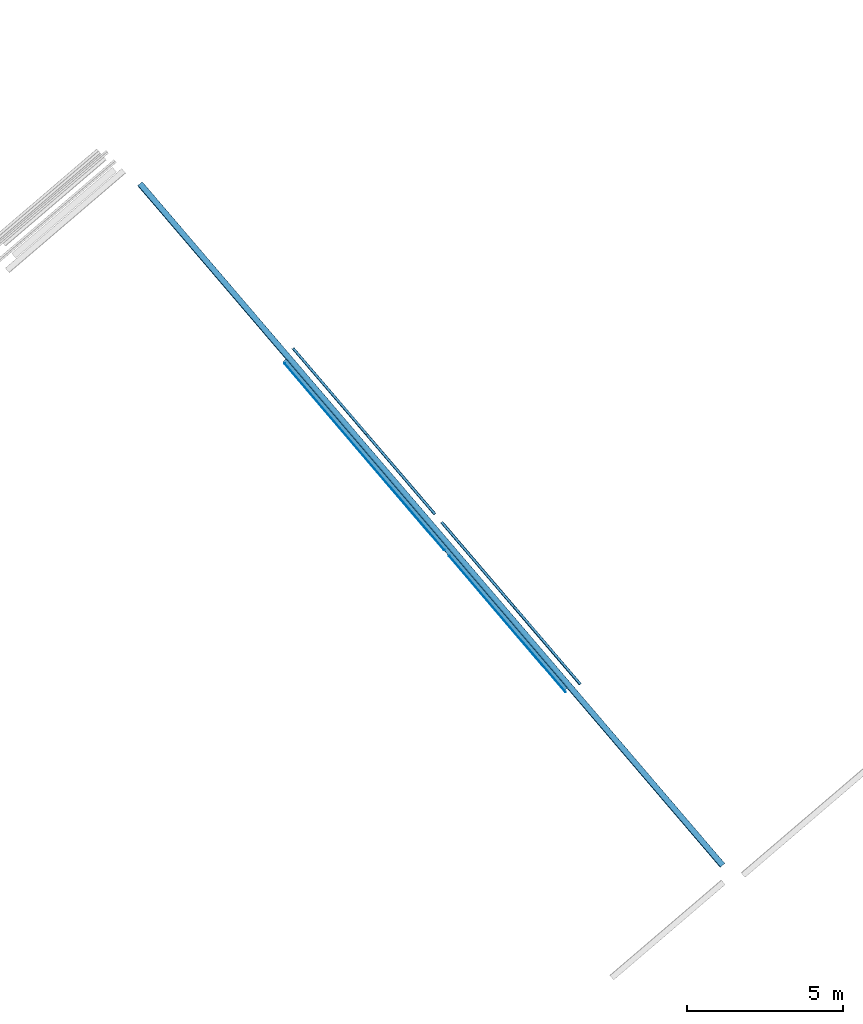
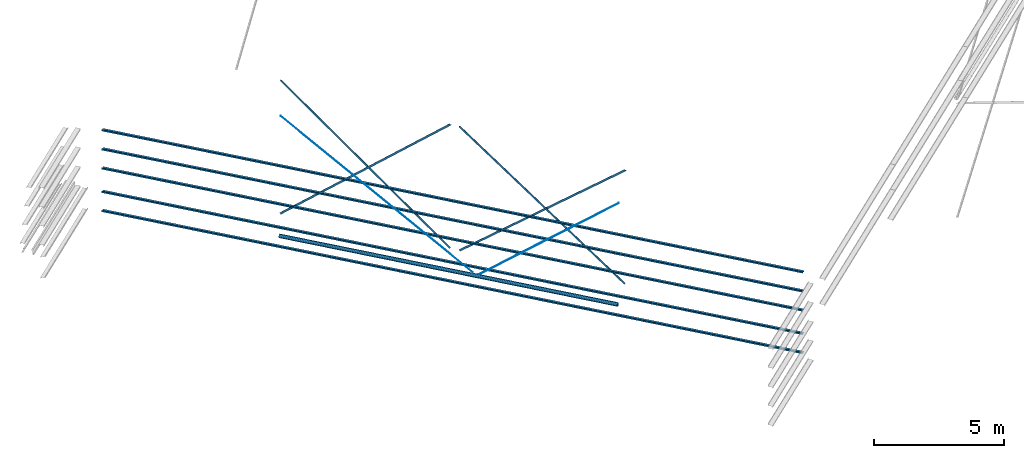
# One storey, part 1 of 6: 12 beams.
"""IFC2X3 building model written with IfcOpenShell, lengths in millimetres."""

from ifc_helpers import new_model, entity, si_unit, converted_unit, derived_unit, direction, frame, frame_2d, origin, origin_2d_with_axis, place, context, subcontext, project, spatial, polyline, circle_curve, parameter, trimmed, segment, composite_curve, circle, hollow_circle, outline, extrude, material, type_object, element, save


model = new_model("IFC2X3")

# Units and contexts
model_context = context("Model", 3, precision=0.01, world=origin(), true_north=direction((6.123031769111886e-17, 1.0)))
body_context = subcontext(model_context, "Body", "Model", "MODEL_VIEW")
ifc_project = project(units=[si_unit("LENGTHUNIT", "METRE", prefix="MILLI"), si_unit("AREAUNIT", "SQUARE_METRE"), si_unit("VOLUMEUNIT", "CUBIC_METRE"), converted_unit("PLANEANGLEUNIT", "DEGREE", entity("IfcRatioMeasure", 0.017453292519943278), si_unit("PLANEANGLEUNIT", "RADIAN"), dimensions=[0, 0, 0, 0, 0, 0, 0]), si_unit("MASSUNIT", "GRAM", prefix="KILO"), derived_unit("MASSDENSITYUNIT", [(si_unit("MASSUNIT", "GRAM", prefix="KILO"), 1), (si_unit("LENGTHUNIT", "METRE"), -3)]), derived_unit("MOMENTOFINERTIAUNIT", [(si_unit("LENGTHUNIT", "METRE"), 4)]), si_unit("TIMEUNIT", "SECOND"), si_unit("FREQUENCYUNIT", "HERTZ"), si_unit("THERMODYNAMICTEMPERATUREUNIT", "DEGREE_CELSIUS"), derived_unit("THERMALTRANSMITTANCEUNIT", [(si_unit("MASSUNIT", "GRAM", prefix="KILO"), 1), (si_unit("THERMODYNAMICTEMPERATUREUNIT", "KELVIN"), -1), (si_unit("TIMEUNIT", "SECOND"), -3)]), derived_unit("VOLUMETRICFLOWRATEUNIT", [(si_unit("LENGTHUNIT", "METRE"), 3), (si_unit("TIMEUNIT", "SECOND"), -1)]), derived_unit("MASSFLOWRATEUNIT", [(si_unit("MASSUNIT", "GRAM", prefix="KILO"), 1), (si_unit("TIMEUNIT", "SECOND"), -1)]), derived_unit("ROTATIONALFREQUENCYUNIT", [(si_unit("TIMEUNIT", "SECOND"), -1)]), si_unit("ELECTRICCURRENTUNIT", "AMPERE"), si_unit("ELECTRICVOLTAGEUNIT", "VOLT"), si_unit("POWERUNIT", "WATT"), si_unit("FORCEUNIT", "NEWTON", prefix="KILO"), si_unit("ILLUMINANCEUNIT", "LUX"), si_unit("LUMINOUSFLUXUNIT", "LUMEN"), si_unit("LUMINOUSINTENSITYUNIT", "CANDELA"), derived_unit("USERDEFINED", [(si_unit("MASSUNIT", "GRAM", prefix="KILO"), -1), (si_unit("LENGTHUNIT", "METRE"), -2), (si_unit("TIMEUNIT", "SECOND"), 3), (si_unit("LUMINOUSFLUXUNIT", "LUMEN"), 1)]), derived_unit("SOUNDPOWERUNIT", [(si_unit("MASSUNIT", "GRAM", prefix="KILO"), 1), (si_unit("LENGTHUNIT", "METRE"), 2), (si_unit("TIMEUNIT", "SECOND"), -3)]), derived_unit("LINEARVELOCITYUNIT", [(si_unit("LENGTHUNIT", "METRE"), 1), (si_unit("TIMEUNIT", "SECOND"), -1)]), si_unit("PRESSUREUNIT", "PASCAL"), derived_unit("USERDEFINED", [(si_unit("LENGTHUNIT", "METRE"), -2), (si_unit("MASSUNIT", "GRAM", prefix="KILO"), 1), (si_unit("TIMEUNIT", "SECOND"), -2)]), derived_unit("LINEARFORCEUNIT", [(si_unit("MASSUNIT", "GRAM", prefix="KILO"), 1), (si_unit("LENGTHUNIT", "METRE"), 1), (si_unit("TIMEUNIT", "SECOND"), -2), (si_unit("LENGTHUNIT", "METRE"), -1)]), derived_unit("PLANARFORCEUNIT", [(si_unit("MASSUNIT", "GRAM", prefix="KILO"), 1), (si_unit("LENGTHUNIT", "METRE"), 1), (si_unit("TIMEUNIT", "SECOND"), -2), (si_unit("LENGTHUNIT", "METRE"), -2)])], contexts=[model_context])

# Site, building, storey
site_placement = place(None, frame((962.4174930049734, -6014.433753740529, 0.0), z_axis=(0.0, 0.0, 1.0), x_axis=(0.7601792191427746, 0.649713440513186, 0.0)))
site = spatial("IfcSite", under=ifc_project, at=site_placement, Name="Default", CompositionType="ELEMENT")
building_placement = place(site_placement, origin())
building = spatial("IfcBuilding", under=site, at=building_placement, CompositionType="ELEMENT")
storey_placement = place(building_placement, frame((0.0, 0.0, 8925.0)))
storey = spatial("IfcBuildingStorey", under=building, at=storey_placement, Name="TOP OF PLANT ROOM", CompositionType="ELEMENT", Elevation=8925.000000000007)

# Beams
ifc_material_1 = material(Name="Metal - Steel - 300 MPa")
beam_type_1 = type_object("IfcBeamType", Name="ADSK_AU_EA-Equal Angles (AS 3679_1):90x90x10EA", PredefinedType="NOTDEFINED")
beam_1_placement = place(storey_placement, frame((154456.88550735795, -18136.802245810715, 2377.26100321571), z_axis=(0.0, 0.6204058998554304, 0.7842808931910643), x_axis=(0.0, 0.7842808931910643, -0.6204058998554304)))
element("IfcBeam", 1, at=beam_1_placement, inside=storey, type_object=beam_type_1, material=ifc_material_1, Name="ADSK_AU_EA-Equal Angles (AS 3679_1):90x90x10EA", ObjectType="ADSK_AU_EA-Equal Angles (AS 3679_1):90x90x10EA", context=body_context, shape_type="SweptSolid", body=[
    extrude(outline(composite_curve([segment(polyline([(29.222222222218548, -55.77777777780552), (34.222222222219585, -55.777777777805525)]), True, "CONTINUOUS"), segment(polyline([(34.222222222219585, -55.7777777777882), (34.22222222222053, 34.222222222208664)]), True, "CONTINUOUS"), segment(polyline([(34.222222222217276, 34.222222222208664), (-55.77777777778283, 34.222222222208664)]), True, "CONTINUOUS"), segment(polyline([(-55.77777777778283, 34.222222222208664), (-55.77777777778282, 29.2222222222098)]), True, "CONTINUOUS"), segment(trimmed(circle_curve(frame_2d((-50.77777777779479, 29.222222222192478), x_axis=(-1.0, 0.0)), 4.999999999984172), [parameter(0.0)], [parameter(90.00000000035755)], True, "PARAMETER"), True, "CONTINUOUS"), segment(polyline([(-50.777777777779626, 24.222222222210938), (16.222222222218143, 24.22222222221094)]), True, "CONTINUOUS"), segment(trimmed(circle_curve(frame_2d((16.222222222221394, 16.22222222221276), x_axis=(0.0, 1.0)), 7.999999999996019), [parameter(269.9999999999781)], [parameter(0.0)], True, "PARAMETER"), False, "CONTINUOUS"), segment(polyline([(24.222222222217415, 16.222222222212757), (24.222222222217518, -50.77777777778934)]), True, "CONTINUOUS"), segment(trimmed(circle_curve(frame_2d((29.222222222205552, -50.777777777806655), x_axis=(-1.0, 0.0)), 4.999999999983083), [parameter(0.0)], [parameter(90.00000000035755)], True, "PARAMETER"), True, "CONTINUOUS")], self_intersect=False)), frame((-28.016889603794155, -8.522222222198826, -55.777777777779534), z_axis=(1.0, 0.0, 0.0), x_axis=(0.0, 0.0, -1.0)), (0.0, 0.0, 1.0), 8633.516889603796),
])
beam_2_placement = place(storey_placement, frame((154449.66020470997, -11451.28332248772, 2866.815206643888), z_axis=(0.0, -0.6524524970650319, 0.7578296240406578), x_axis=(0.0, -0.7578296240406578, -0.6524524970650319)))
element("IfcBeam", 2, at=beam_2_placement, inside=storey, type_object=beam_type_1, material=ifc_material_1, Name="ADSK_AU_EA-Equal Angles (AS 3679_1):90x90x10EA", ObjectType="ADSK_AU_EA-Equal Angles (AS 3679_1):90x90x10EA", context=body_context, shape_type="SweptSolid", body=[
    extrude(outline(composite_curve([segment(polyline([(-55.777777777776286, -34.22222222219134), (34.22222222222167, -34.22222222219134)]), True, "CONTINUOUS"), segment(polyline([(34.22222222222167, -34.22222222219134), (34.22222222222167, 55.777777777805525)]), True, "CONTINUOUS"), segment(polyline([(34.22222222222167, 55.77777777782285), (29.222222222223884, 55.77777777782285)]), True, "CONTINUOUS"), segment(trimmed(circle_curve(frame_2d((29.22222222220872, 50.777777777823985), x_axis=(0.0, 1.0)), 4.999999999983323), [parameter(0.0)], [parameter(90.00000000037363)], True, "PARAMETER"), True, "CONTINUOUS"), segment(polyline([(24.22222222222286, 50.77777777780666), (24.22222222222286, -16.222222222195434)]), True, "CONTINUOUS"), segment(trimmed(circle_curve(frame_2d((16.22222222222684, -16.222222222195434), x_axis=(1.0, 0.0)), 7.999999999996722), [parameter(269.999999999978)], [parameter(0.0)], True, "PARAMETER"), False, "CONTINUOUS"), segment(polyline([(16.22222222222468, -24.222222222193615), (-50.777777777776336, -24.222222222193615)]), True, "CONTINUOUS"), segment(trimmed(circle_curve(frame_2d((-50.77777777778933, -29.22222222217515), x_axis=(0.0, 1.0)), 4.999999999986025), [parameter(0.0)], [parameter(90.00000000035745)], True, "PARAMETER"), True, "CONTINUOUS"), segment(polyline([(-55.777777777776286, -29.222222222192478), (-55.777777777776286, -34.22222222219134)]), True, "CONTINUOUS")], self_intersect=False)), frame((-12.609983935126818, 8.522222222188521, -55.77777777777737), z_axis=(1.0, 0.0, 0.0), x_axis=(0.0, 0.0, -1.0)), (0.0, 0.0, 1.0), 8928.826161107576),
])
beam_3_placement = place(storey_placement, frame((154451.84659723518, -4131.865091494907, 3340.264779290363), z_axis=(0.0006733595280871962, -0.6717753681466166, 0.7407546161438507), x_axis=(0.0007425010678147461, -0.7407542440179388, -0.6717757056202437)))
element("IfcBeam", 3, at=beam_3_placement, inside=storey, type_object=beam_type_1, material=ifc_material_1, Name="ADSK_AU_EA-Equal Angles (AS 3679_1):90x90x10EA", ObjectType="ADSK_AU_EA-Equal Angles (AS 3679_1):90x90x10EA", context=body_context, shape_type="SweptSolid", body=[
    extrude(outline(composite_curve([segment(polyline([(-55.777777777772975, -34.22222222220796), (34.22222222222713, -34.22222222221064)]), True, "CONTINUOUS"), segment(polyline([(34.22222222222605, -34.22222222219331), (34.22222222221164, 55.777777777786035)]), True, "CONTINUOUS"), segment(polyline([(34.22222222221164, 55.77777777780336), (29.222222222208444, 55.77777777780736)]), True, "CONTINUOUS"), segment(trimmed(circle_curve(frame_2d((29.2222222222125, 50.77777777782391), x_axis=(0.0, 1.0)), 4.9999999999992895), [parameter(0.0)], [parameter(90.00000000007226)], True, "PARAMETER"), True, "CONTINUOUS"), segment(polyline([(24.222222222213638, 50.77777777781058), (24.222222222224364, -16.222222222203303)]), True, "CONTINUOUS"), segment(trimmed(circle_curve(frame_2d((16.222222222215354, -16.222222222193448), x_axis=(1.0, 0.0)), 8.000000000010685), [parameter(270.0000000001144)], [parameter(0.0)], True, "PARAMETER"), False, "CONTINUOUS"), segment(polyline([(16.222222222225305, -24.222222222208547), (-50.77777777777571, -24.222222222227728)]), True, "CONTINUOUS"), segment(trimmed(circle_curve(frame_2d((-50.777777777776, -29.222222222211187), x_axis=(0.0, 1.0)), 4.999999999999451), [parameter(0.0)], [parameter(90.0000000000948)], True, "PARAMETER"), True, "CONTINUOUS"), segment(polyline([(-55.77777777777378, -29.222222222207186), (-55.777777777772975, -34.22222222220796)]), True, "CONTINUOUS")], self_intersect=False)), frame((0.0, 8.522222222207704, -55.77777777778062), z_axis=(1.0, 0.0, 0.0), x_axis=(0.0, 0.0, -1.0)), (0.0, 0.0, 1.0), 9353.000000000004),
])
beam_4_placement = place(storey_placement, frame((154451.66020471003, -11019.596010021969, 2894.25259975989), z_axis=(0.0, 0.6417807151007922, 0.7668882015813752), x_axis=(0.0, 0.7668882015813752, -0.6417807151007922)))
element("IfcBeam", 4, at=beam_4_placement, inside=storey, type_object=beam_type_1, material=ifc_material_1, Name="ADSK_AU_EA-Equal Angles (AS 3679_1):90x90x10EA", ObjectType="ADSK_AU_EA-Equal Angles (AS 3679_1):90x90x10EA", context=body_context, shape_type="SweptSolid", body=[
    extrude(outline(composite_curve([segment(polyline([(29.222222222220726, -55.77777777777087), (34.222222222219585, -55.77777777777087)]), True, "CONTINUOUS"), segment(polyline([(34.222222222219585, -55.77777777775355), (34.22222222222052, 34.222222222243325)]), True, "CONTINUOUS"), segment(polyline([(34.22222222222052, 34.222222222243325), (-55.77777777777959, 34.22222222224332)]), True, "CONTINUOUS"), segment(polyline([(-55.77777777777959, 34.22222222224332), (-55.777777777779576, 29.222222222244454)]), True, "CONTINUOUS"), segment(trimmed(circle_curve(frame_2d((-50.77777777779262, 29.222222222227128), x_axis=(-1.0, 0.0)), 4.999999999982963), [parameter(0.0)], [parameter(90.0000000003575)], True, "PARAMETER"), True, "CONTINUOUS"), segment(polyline([(-50.777777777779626, 24.22222222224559), (16.22222222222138, 24.22222222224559)]), True, "CONTINUOUS"), segment(trimmed(circle_curve(frame_2d((16.222222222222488, 16.22222222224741), x_axis=(0.0, 1.0)), 7.999999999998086), [parameter(269.999999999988)], [parameter(0.0)], True, "PARAMETER"), False, "CONTINUOUS"), segment(polyline([(24.22222222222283, 16.222222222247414), (24.22222222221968, -50.777777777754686)]), True, "CONTINUOUS"), segment(trimmed(circle_curve(frame_2d((29.222222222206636, -50.77777777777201), x_axis=(-1.0, 0.0)), 4.999999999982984), [parameter(0.0)], [parameter(90.0000000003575)], True, "PARAMETER"), True, "CONTINUOUS")], self_intersect=False)), frame((26.20707219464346, -8.522222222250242, -55.777777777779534), z_axis=(1.0, 0.0, 0.0), x_axis=(0.0, 0.0, -1.0)), (0.0, 0.0, 1.0), 9058.192927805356),
])
beam_type_2 = type_object("IfcBeamType", Name="ADSK_UK_Light Gauge-Zeds-Purlin:Metsec-202Z14", PredefinedType="NOTDEFINED")
beam_5_placement = place(storey_placement, frame((154066.46020470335, -25607.428082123, -3425.0), z_axis=(0.0, 0.0, 1.0), x_axis=(0.0, 1.0, 0.0)))
element("IfcBeam", 5, at=beam_5_placement, inside=storey, type_object=beam_type_2, material=ifc_material_1, Name="ADSK_UK_Light Gauge-Zeds-Purlin:Metsec-202Z14", ObjectType="ADSK_UK_Light Gauge-Zeds-Purlin:Metsec-202Z14", context=body_context, shape_type="SweptSolid", body=[
    extrude(outline(composite_curve([segment(polyline([(3.600000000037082, -101.20000000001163), (58.0, -101.20000000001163)]), True, "CONTINUOUS"), segment(trimmed(circle_curve(frame_2d((58.0, -98.40000000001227), x_axis=(0.0, -1.0)), 2.8000000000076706), [parameter(0.0)], [parameter(89.99999999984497)], True, "PARAMETER"), True, "CONTINUOUS"), segment(polyline([(60.80000000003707, -98.40000000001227), (60.79999999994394, -80.2000000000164)]), True, "CONTINUOUS"), segment(polyline([(60.80000000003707, -80.2000000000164), (59.399999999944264, -80.2000000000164)]), True, "CONTINUOUS"), segment(polyline([(59.40000000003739, -80.1999999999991), (59.399999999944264, -98.40000000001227)]), True, "CONTINUOUS"), segment(trimmed(circle_curve(frame_2d((58.0, -98.40000000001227), x_axis=(1.0, 0.0)), 1.3999999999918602), [parameter(269.9999999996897)], [parameter(0.0)], True, "PARAMETER"), False, "CONTINUOUS"), segment(polyline([(58.0, -99.80000000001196), (3.5999999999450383, -99.80000000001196)]), True, "CONTINUOUS"), segment(trimmed(circle_curve(frame_2d((3.5999999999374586, -98.40000000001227), x_axis=(0.0, -1.0)), 1.399999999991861), [parameter(269.9999999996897)], [parameter(0.0)], True, "PARAMETER"), False, "CONTINUOUS"), segment(polyline([(2.2000000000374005, -98.39999999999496), (2.1999999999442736, 98.0)]), True, "CONTINUOUS"), segment(trimmed(circle_curve(frame_2d((-0.60000000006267, 98.0), x_axis=(1.0, 0.0)), 2.8000000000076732), [parameter(0.0)], [parameter(89.99999999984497)], True, "PARAMETER"), True, "CONTINUOUS"), segment(polyline([(-0.5999999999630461, 100.79999999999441), (-60.0, 100.79999999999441)]), True, "CONTINUOUS"), segment(trimmed(circle_curve(frame_2d((-60.0, 98.0), x_axis=(0.0, 1.0)), 2.800000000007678), [parameter(0.0)], [parameter(89.99999999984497)], True, "PARAMETER"), True, "CONTINUOUS"), segment(polyline([(-62.799999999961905, 98.0), (-62.80000000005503, 81.79999999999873)]), True, "CONTINUOUS"), segment(polyline([(-62.799999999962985, 81.79999999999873), (-61.40000000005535, 81.79999999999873)]), True, "CONTINUOUS"), segment(polyline([(-61.39999999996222, 81.79999999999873), (-61.40000000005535, 98.0)]), True, "CONTINUOUS"), segment(trimmed(circle_curve(frame_2d((-60.0, 98.0), x_axis=(-1.0, 0.0)), 1.3999999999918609), [parameter(269.9999999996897)], [parameter(0.0)], True, "PARAMETER"), False, "CONTINUOUS"), segment(polyline([(-60.0, 99.39999999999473), (-0.6000000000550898, 99.39999999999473)]), True, "CONTINUOUS"), segment(trimmed(circle_curve(frame_2d((-0.6000000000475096, 98.0), x_axis=(0.0, 1.0)), 1.399999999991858), [parameter(269.9999999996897)], [parameter(0.0)], True, "PARAMETER"), False, "CONTINUOUS"), segment(polyline([(0.8000000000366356, 98.0), (0.7999999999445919, -98.40000000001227)]), True, "CONTINUOUS"), segment(trimmed(circle_curve(frame_2d((3.599999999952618, -98.40000000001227), x_axis=(-1.0, 0.0)), 2.800000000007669), [parameter(0.0)], [parameter(89.99999999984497)], True, "PARAMETER"), True, "CONTINUOUS")], self_intersect=False)), frame((43.0, -100.79999999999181, 0.6999999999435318), z_axis=(1.0, 0.0, 0.0), x_axis=(0.0, 0.0, -1.0)), (0.0, 0.0, 1.0), 28668.999999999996),
])
beam_6_placement = place(storey_placement, frame((154066.46020470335, -25607.428082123, -4325.0), z_axis=(0.0, 0.0, 1.0), x_axis=(0.0, 1.0, 0.0)))
element("IfcBeam", 6, at=beam_6_placement, inside=storey, type_object=beam_type_2, material=ifc_material_1, Name="ADSK_UK_Light Gauge-Zeds-Purlin:Metsec-202Z14", ObjectType="ADSK_UK_Light Gauge-Zeds-Purlin:Metsec-202Z14", context=body_context, shape_type="SweptSolid", body=[
    extrude(outline(composite_curve([segment(polyline([(3.6000000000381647, -101.20000000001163), (58.0, -101.20000000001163)]), True, "CONTINUOUS"), segment(trimmed(circle_curve(frame_2d((58.0, -98.40000000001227), x_axis=(0.0, -1.0)), 2.800000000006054), [parameter(0.0)], [parameter(89.99999999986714)], True, "PARAMETER"), True, "CONTINUOUS"), segment(polyline([(60.80000000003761, -98.40000000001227), (60.79999999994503, -80.2000000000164)]), True, "CONTINUOUS"), segment(polyline([(60.80000000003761, -80.2000000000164), (59.39999999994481, -80.2000000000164)]), True, "CONTINUOUS"), segment(polyline([(59.400000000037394, -80.1999999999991), (59.39999999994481, -98.40000000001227)]), True, "CONTINUOUS"), segment(trimmed(circle_curve(frame_2d((58.0, -98.40000000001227), x_axis=(1.0, 0.0)), 1.3999999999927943), [parameter(269.9999999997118)], [parameter(0.0)], True, "PARAMETER"), False, "CONTINUOUS"), segment(polyline([(58.0, -99.80000000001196), (3.5999999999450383, -99.80000000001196)]), True, "CONTINUOUS"), segment(trimmed(circle_curve(frame_2d((3.5999999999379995, -98.40000000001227), x_axis=(0.0, -1.0)), 1.3999999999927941), [parameter(269.9999999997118)], [parameter(0.0)], True, "PARAMETER"), False, "CONTINUOUS"), segment(polyline([(2.200000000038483, -98.39999999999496), (2.1999999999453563, 98.0)]), True, "CONTINUOUS"), segment(trimmed(circle_curve(frame_2d((-0.6000000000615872, 98.0), x_axis=(1.0, 0.0)), 2.800000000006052), [parameter(0.0)], [parameter(89.99999999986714)], True, "PARAMETER"), True, "CONTINUOUS"), segment(polyline([(-0.5999999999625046, 100.79999999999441), (-60.0, 100.79999999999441)]), True, "CONTINUOUS"), segment(trimmed(circle_curve(frame_2d((-60.0, 98.0), x_axis=(0.0, 1.0)), 2.8000000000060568), [parameter(0.0)], [parameter(89.99999999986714)], True, "PARAMETER"), True, "CONTINUOUS"), segment(polyline([(-62.79999999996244, 98.0), (-62.80000000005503, 81.79999999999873)]), True, "CONTINUOUS"), segment(polyline([(-62.7999999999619, 81.79999999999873), (-61.4000000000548, 81.79999999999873)]), True, "CONTINUOUS"), segment(polyline([(-61.39999999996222, 81.79999999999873), (-61.4000000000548, 98.0)]), True, "CONTINUOUS"), segment(trimmed(circle_curve(frame_2d((-60.0, 98.0), x_axis=(-1.0, 0.0)), 1.399999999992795), [parameter(269.9999999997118)], [parameter(0.0)], True, "PARAMETER"), False, "CONTINUOUS"), segment(polyline([(-60.0, 99.39999999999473), (-0.6000000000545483, 99.39999999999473)]), True, "CONTINUOUS"), segment(trimmed(circle_curve(frame_2d((-0.6000000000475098, 98.0), x_axis=(0.0, 1.0)), 1.3999999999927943), [parameter(269.9999999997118)], [parameter(0.0)], True, "PARAMETER"), False, "CONTINUOUS"), segment(polyline([(0.8000000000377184, 98.0), (0.7999999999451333, -98.40000000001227)]), True, "CONTINUOUS"), segment(trimmed(circle_curve(frame_2d((3.5999999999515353, -98.40000000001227), x_axis=(-1.0, 0.0)), 2.800000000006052), [parameter(0.0)], [parameter(89.99999999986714)], True, "PARAMETER"), True, "CONTINUOUS")], self_intersect=False)), frame((43.0, -100.79999999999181, 0.6999999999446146), z_axis=(1.0, 0.0, 0.0), x_axis=(0.0, 0.0, -1.0)), (0.0, 0.0, 1.0), 28668.999999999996),
])
beam_7_placement = place(storey_placement, frame((154066.46020470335, -25607.428082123, -2325.0), z_axis=(0.0, 0.0, 1.0), x_axis=(0.0, 1.0, 0.0)))
element("IfcBeam", 7, at=beam_7_placement, inside=storey, type_object=beam_type_2, material=ifc_material_1, Name="ADSK_UK_Light Gauge-Zeds-Purlin:Metsec-202Z14", ObjectType="ADSK_UK_Light Gauge-Zeds-Purlin:Metsec-202Z14", context=body_context, shape_type="SweptSolid", body=[
    extrude(outline(composite_curve([segment(polyline([(3.6000000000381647, -101.20000000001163), (58.0, -101.20000000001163)]), True, "CONTINUOUS"), segment(trimmed(circle_curve(frame_2d((58.0, -98.40000000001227), x_axis=(0.0, -1.0)), 2.8000000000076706), [parameter(0.0)], [parameter(89.99999999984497)], True, "PARAMETER"), True, "CONTINUOUS"), segment(polyline([(60.80000000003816, -98.40000000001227), (60.79999999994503, -80.2000000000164)]), True, "CONTINUOUS"), segment(polyline([(60.80000000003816, -80.2000000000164), (59.39999999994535, -80.2000000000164)]), True, "CONTINUOUS"), segment(polyline([(59.400000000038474, -80.1999999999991), (59.39999999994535, -98.40000000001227)]), True, "CONTINUOUS"), segment(trimmed(circle_curve(frame_2d((58.0, -98.40000000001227), x_axis=(1.0, 0.0)), 1.3999999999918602), [parameter(269.9999999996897)], [parameter(0.0)], True, "PARAMETER"), False, "CONTINUOUS"), segment(polyline([(58.0, -99.80000000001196), (3.599999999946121, -99.80000000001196)]), True, "CONTINUOUS"), segment(trimmed(circle_curve(frame_2d((3.5999999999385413, -98.40000000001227), x_axis=(0.0, -1.0)), 1.399999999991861), [parameter(269.9999999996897)], [parameter(0.0)], True, "PARAMETER"), False, "CONTINUOUS"), segment(polyline([(2.200000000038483, -98.39999999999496), (2.1999999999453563, 98.0)]), True, "CONTINUOUS"), segment(trimmed(circle_curve(frame_2d((-0.6000000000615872, 98.0), x_axis=(1.0, 0.0)), 2.8000000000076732), [parameter(0.0)], [parameter(89.99999999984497)], True, "PARAMETER"), True, "CONTINUOUS"), segment(polyline([(-0.5999999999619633, 100.79999999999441), (-60.0, 100.79999999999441)]), True, "CONTINUOUS"), segment(trimmed(circle_curve(frame_2d((-60.0, 98.0), x_axis=(0.0, 1.0)), 2.800000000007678), [parameter(0.0)], [parameter(89.99999999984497)], True, "PARAMETER"), True, "CONTINUOUS"), segment(polyline([(-62.79999999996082, 98.0), (-62.80000000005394, 81.79999999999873)]), True, "CONTINUOUS"), segment(polyline([(-62.7999999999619, 81.79999999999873), (-61.40000000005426, 81.79999999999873)]), True, "CONTINUOUS"), segment(polyline([(-61.39999999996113, 81.79999999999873), (-61.40000000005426, 98.0)]), True, "CONTINUOUS"), segment(trimmed(circle_curve(frame_2d((-60.0, 98.0), x_axis=(-1.0, 0.0)), 1.3999999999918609), [parameter(269.9999999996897)], [parameter(0.0)], True, "PARAMETER"), False, "CONTINUOUS"), segment(polyline([(-60.0, 99.39999999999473), (-0.600000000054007, 99.39999999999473)]), True, "CONTINUOUS"), segment(trimmed(circle_curve(frame_2d((-0.6000000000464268, 98.0), x_axis=(0.0, 1.0)), 1.399999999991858), [parameter(269.9999999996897)], [parameter(0.0)], True, "PARAMETER"), False, "CONTINUOUS"), segment(polyline([(0.8000000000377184, 98.0), (0.7999999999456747, -98.40000000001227)]), True, "CONTINUOUS"), segment(trimmed(circle_curve(frame_2d((3.599999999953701, -98.40000000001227), x_axis=(-1.0, 0.0)), 2.800000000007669), [parameter(0.0)], [parameter(89.99999999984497)], True, "PARAMETER"), True, "CONTINUOUS")], self_intersect=False)), frame((43.0, -100.79999999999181, 0.6999999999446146), z_axis=(1.0, 0.0, 0.0), x_axis=(0.0, 0.0, -1.0)), (0.0, 0.0, 1.0), 28668.999999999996),
])
beam_8_placement = place(storey_placement, frame((154066.46020470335, -25607.428082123, -1425.0), z_axis=(0.0, 0.0, 1.0), x_axis=(0.0, 1.0, 0.0)))
element("IfcBeam", 8, at=beam_8_placement, inside=storey, type_object=beam_type_2, material=ifc_material_1, Name="ADSK_UK_Light Gauge-Zeds-Purlin:Metsec-202Z14", ObjectType="ADSK_UK_Light Gauge-Zeds-Purlin:Metsec-202Z14", context=body_context, shape_type="SweptSolid", body=[
    extrude(outline(composite_curve([segment(polyline([(3.600000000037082, -101.20000000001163), (58.0, -101.20000000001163)]), True, "CONTINUOUS"), segment(trimmed(circle_curve(frame_2d((58.0, -98.40000000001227), x_axis=(0.0, -1.0)), 2.8000000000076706), [parameter(0.0)], [parameter(89.99999999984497)], True, "PARAMETER"), True, "CONTINUOUS"), segment(polyline([(60.80000000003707, -98.40000000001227), (60.79999999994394, -80.2000000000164)]), True, "CONTINUOUS"), segment(polyline([(60.80000000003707, -80.2000000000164), (59.399999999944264, -80.2000000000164)]), True, "CONTINUOUS"), segment(polyline([(59.40000000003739, -80.1999999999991), (59.399999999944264, -98.40000000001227)]), True, "CONTINUOUS"), segment(trimmed(circle_curve(frame_2d((58.0, -98.40000000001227), x_axis=(1.0, 0.0)), 1.3999999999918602), [parameter(269.9999999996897)], [parameter(0.0)], True, "PARAMETER"), False, "CONTINUOUS"), segment(polyline([(58.0, -99.80000000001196), (3.5999999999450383, -99.80000000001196)]), True, "CONTINUOUS"), segment(trimmed(circle_curve(frame_2d((3.5999999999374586, -98.40000000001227), x_axis=(0.0, -1.0)), 1.399999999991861), [parameter(269.9999999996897)], [parameter(0.0)], True, "PARAMETER"), False, "CONTINUOUS"), segment(polyline([(2.2000000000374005, -98.39999999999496), (2.1999999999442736, 98.0)]), True, "CONTINUOUS"), segment(trimmed(circle_curve(frame_2d((-0.60000000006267, 98.0), x_axis=(1.0, 0.0)), 2.8000000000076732), [parameter(0.0)], [parameter(89.99999999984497)], True, "PARAMETER"), True, "CONTINUOUS"), segment(polyline([(-0.5999999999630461, 100.79999999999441), (-60.0, 100.79999999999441)]), True, "CONTINUOUS"), segment(trimmed(circle_curve(frame_2d((-60.0, 98.0), x_axis=(0.0, 1.0)), 2.800000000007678), [parameter(0.0)], [parameter(89.99999999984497)], True, "PARAMETER"), True, "CONTINUOUS"), segment(polyline([(-62.799999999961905, 98.0), (-62.80000000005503, 81.79999999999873)]), True, "CONTINUOUS"), segment(polyline([(-62.799999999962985, 81.79999999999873), (-61.40000000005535, 81.79999999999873)]), True, "CONTINUOUS"), segment(polyline([(-61.39999999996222, 81.79999999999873), (-61.40000000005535, 98.0)]), True, "CONTINUOUS"), segment(trimmed(circle_curve(frame_2d((-60.0, 98.0), x_axis=(-1.0, 0.0)), 1.3999999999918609), [parameter(269.9999999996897)], [parameter(0.0)], True, "PARAMETER"), False, "CONTINUOUS"), segment(polyline([(-60.0, 99.39999999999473), (-0.6000000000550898, 99.39999999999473)]), True, "CONTINUOUS"), segment(trimmed(circle_curve(frame_2d((-0.6000000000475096, 98.0), x_axis=(0.0, 1.0)), 1.399999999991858), [parameter(269.9999999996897)], [parameter(0.0)], True, "PARAMETER"), False, "CONTINUOUS"), segment(polyline([(0.8000000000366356, 98.0), (0.7999999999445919, -98.40000000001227)]), True, "CONTINUOUS"), segment(trimmed(circle_curve(frame_2d((3.599999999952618, -98.40000000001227), x_axis=(-1.0, 0.0)), 2.800000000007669), [parameter(0.0)], [parameter(89.99999999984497)], True, "PARAMETER"), True, "CONTINUOUS")], self_intersect=False)), frame((43.0, -100.79999999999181, 0.6999999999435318), z_axis=(1.0, 0.0, 0.0), x_axis=(0.0, 0.0, -1.0)), (0.0, 0.0, 1.0), 28668.999999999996),
])
beam_9_placement = place(storey_placement, frame((154066.46020470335, -25607.428082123, -525.0), z_axis=(0.0, 0.0, 1.0), x_axis=(0.0, 1.0, 0.0)))
element("IfcBeam", 9, at=beam_9_placement, inside=storey, type_object=beam_type_2, material=ifc_material_1, Name="ADSK_UK_Light Gauge-Zeds-Purlin:Metsec-202Z14", ObjectType="ADSK_UK_Light Gauge-Zeds-Purlin:Metsec-202Z14", context=body_context, shape_type="SweptSolid", body=[
    extrude(outline(composite_curve([segment(polyline([(3.600000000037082, -101.20000000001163), (58.0, -101.20000000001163)]), True, "CONTINUOUS"), segment(trimmed(circle_curve(frame_2d((58.0, -98.40000000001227), x_axis=(0.0, -1.0)), 2.8000000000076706), [parameter(0.0)], [parameter(89.99999999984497)], True, "PARAMETER"), True, "CONTINUOUS"), segment(polyline([(60.80000000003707, -98.40000000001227), (60.79999999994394, -80.2000000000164)]), True, "CONTINUOUS"), segment(polyline([(60.80000000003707, -80.2000000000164), (59.399999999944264, -80.2000000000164)]), True, "CONTINUOUS"), segment(polyline([(59.40000000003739, -80.1999999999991), (59.399999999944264, -98.40000000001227)]), True, "CONTINUOUS"), segment(trimmed(circle_curve(frame_2d((58.0, -98.40000000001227), x_axis=(1.0, 0.0)), 1.3999999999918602), [parameter(269.9999999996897)], [parameter(0.0)], True, "PARAMETER"), False, "CONTINUOUS"), segment(polyline([(58.0, -99.80000000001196), (3.5999999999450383, -99.80000000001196)]), True, "CONTINUOUS"), segment(trimmed(circle_curve(frame_2d((3.5999999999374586, -98.40000000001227), x_axis=(0.0, -1.0)), 1.399999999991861), [parameter(269.9999999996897)], [parameter(0.0)], True, "PARAMETER"), False, "CONTINUOUS"), segment(polyline([(2.2000000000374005, -98.39999999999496), (2.1999999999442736, 98.0)]), True, "CONTINUOUS"), segment(trimmed(circle_curve(frame_2d((-0.60000000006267, 98.0), x_axis=(1.0, 0.0)), 2.8000000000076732), [parameter(0.0)], [parameter(89.99999999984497)], True, "PARAMETER"), True, "CONTINUOUS"), segment(polyline([(-0.5999999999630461, 100.79999999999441), (-60.0, 100.79999999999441)]), True, "CONTINUOUS"), segment(trimmed(circle_curve(frame_2d((-60.0, 98.0), x_axis=(0.0, 1.0)), 2.800000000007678), [parameter(0.0)], [parameter(89.99999999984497)], True, "PARAMETER"), True, "CONTINUOUS"), segment(polyline([(-62.799999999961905, 98.0), (-62.80000000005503, 81.79999999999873)]), True, "CONTINUOUS"), segment(polyline([(-62.799999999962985, 81.79999999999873), (-61.40000000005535, 81.79999999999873)]), True, "CONTINUOUS"), segment(polyline([(-61.39999999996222, 81.79999999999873), (-61.40000000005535, 98.0)]), True, "CONTINUOUS"), segment(trimmed(circle_curve(frame_2d((-60.0, 98.0), x_axis=(-1.0, 0.0)), 1.3999999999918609), [parameter(269.9999999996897)], [parameter(0.0)], True, "PARAMETER"), False, "CONTINUOUS"), segment(polyline([(-60.0, 99.39999999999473), (-0.6000000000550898, 99.39999999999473)]), True, "CONTINUOUS"), segment(trimmed(circle_curve(frame_2d((-0.6000000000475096, 98.0), x_axis=(0.0, 1.0)), 1.399999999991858), [parameter(269.9999999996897)], [parameter(0.0)], True, "PARAMETER"), False, "CONTINUOUS"), segment(polyline([(0.8000000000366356, 98.0), (0.7999999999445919, -98.40000000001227)]), True, "CONTINUOUS"), segment(trimmed(circle_curve(frame_2d((3.599999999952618, -98.40000000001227), x_axis=(-1.0, 0.0)), 2.800000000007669), [parameter(0.0)], [parameter(89.99999999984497)], True, "PARAMETER"), True, "CONTINUOUS")], self_intersect=False)), frame((43.0, -100.79999999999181, 0.6999999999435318), z_axis=(1.0, 0.0, 0.0), x_axis=(0.0, 0.0, -1.0)), (0.0, 0.0, 1.0), 28668.999999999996),
])
ifc_material_2 = material(Name="<Unnamed>")
beam_type_3 = type_object("IfcBeamType", Name="ADSK_AU_CHS-Circular Hollow Sections (AS 1163_C350):168.3x4.8CHS EXISTING", PredefinedType="NOTDEFINED")
beam_10_placement = place(storey_placement, frame((153941.89267041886, -25607.428082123, -3725.0), z_axis=(0.0, 0.0, 1.0), x_axis=(0.0, 1.0, 0.0)))
element("IfcBeam", 10, at=beam_10_placement, inside=storey, type_object=beam_type_3, material=ifc_material_2, Name="ADSK_AU_CHS-Circular Hollow Sections (AS 1163_C350):168.3x4.8CHS EXISTING", ObjectType="ADSK_AU_CHS-Circular Hollow Sections (AS 1163_C350):168.3x4.8CHS EXISTING", context=body_context, shape_type="SweptSolid", body=[
    extrude(hollow_circle(Radius=84.15000000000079, WallThickness=4.800000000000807, at=origin_2d_with_axis()), frame((7569.399999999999, -84.14999999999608, 0.0), z_axis=(1.0, 0.0, 0.0), x_axis=(0.0, 0.0, -1.0)), (0.0, 0.0, 1.0), 13846.200000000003),
])
beam_type_4 = type_object("IfcBeamType", Name="ADSK_AU_Round Bars (AS 3679_1):24ROD (EXISTING)", PredefinedType="NOTDEFINED")
beam_11_placement = place(storey_placement, frame((153941.8926704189, -18093.079634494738, 1109.2393866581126), z_axis=(0.0, 0.6345537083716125, 0.7728787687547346), x_axis=(0.0, 0.7728787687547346, -0.6345537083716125)))
element("IfcBeam", 11, at=beam_11_placement, inside=storey, type_object=beam_type_4, Name="ADSK_AU_Round Bars (AS 3679_1):24ROD (EXISTING)", ObjectType="ADSK_AU_Round Bars (AS 3679_1):24ROD (EXISTING)", context=body_context, shape_type="SweptSolid", body=[
    extrude(circle(Radius=12.00000000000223, at=origin_2d_with_axis()), frame((0.0, -12.0, 0.0), z_axis=(1.0, 0.0, 0.0), x_axis=(0.0, 0.0, -1.0)), (0.0, 0.0, 1.0), 7400.000000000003),
])
beam_12_placement = place(storey_placement, frame((153941.89267041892, -4339.072180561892, 1929.6802126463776), z_axis=(0.0, -0.5756133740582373, 0.8177219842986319), x_axis=(0.0, -0.8177219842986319, -0.5756133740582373)))
element("IfcBeam", 12, at=beam_12_placement, inside=storey, type_object=beam_type_4, Name="ADSK_AU_Round Bars (AS 3679_1):24ROD (EXISTING)", ObjectType="ADSK_AU_Round Bars (AS 3679_1):24ROD (EXISTING)", context=body_context, shape_type="SweptSolid", body=[
    extrude(circle(Radius=12.000000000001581, at=origin_2d_with_axis()), frame((-81.27862604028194, 12.0, 0.0), z_axis=(1.0, 0.0, 0.0), x_axis=(0.0, 0.0, -1.0)), (0.0, 0.0, 1.0), 9601.278626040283),
])

save(model, "model.ifc")
